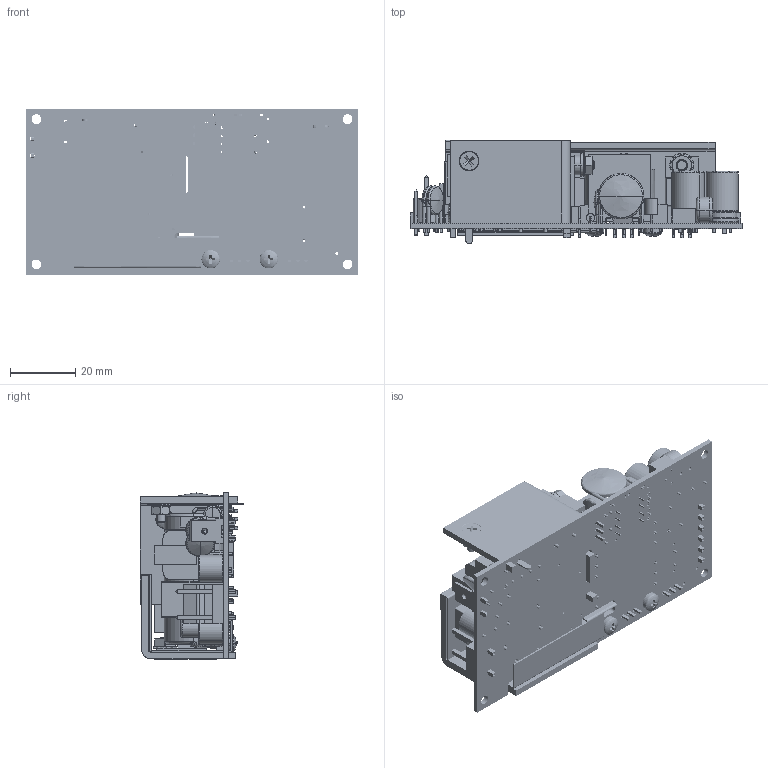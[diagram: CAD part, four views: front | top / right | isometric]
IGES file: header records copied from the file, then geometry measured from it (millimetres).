
Start section: SolidWorks IGES file using analytic representation for surfaces
Global section: file name: C:\Documents and Settings\behzar\Desktop\BEHZAR\PROJECTS\CURRENT-2010\SW-MODELS\WORKING\ECM40_60 SINGLE-OUTPUT.IGS; native system: SolidWorks 2010; preprocessor: SolidWorks 2010; author: BEHZAR; date: 100617.162317; units: inch
Bounding box: 101.6 x 31.76 x 50.92 mm (x, y, z)
Surface area: 52603.1 mm2 (no closed solid volume)
Topology: 0 solids, 0 shells, 2208 faces, 21950 edges, 21924 vertices
Faces by surface type: bspline 1364, revolution 844
